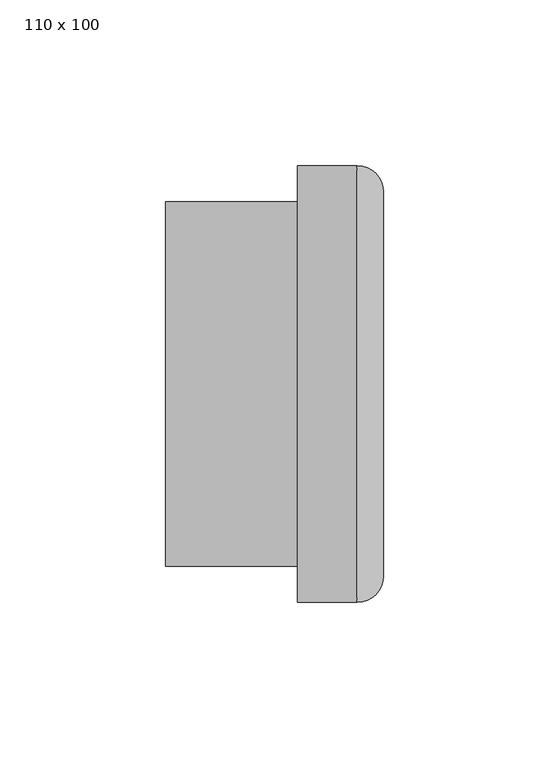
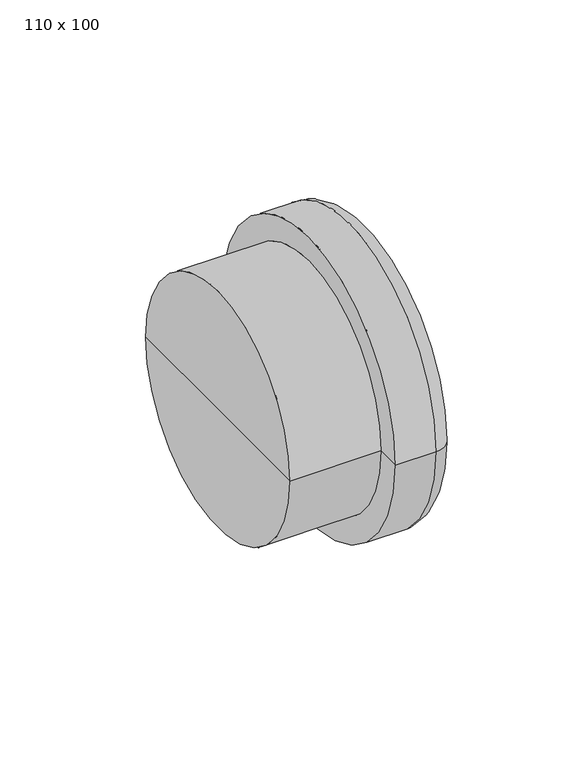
"""IFC4 building model written with IfcOpenShell, lengths in millimetres: pipe fitting geometry, AliaxisFR_Friaphon_MultipleConnector_FR : 110 x 100."""

from ifc_helpers import new_model, si_unit, point, frame, origin, place, context, project, spatial, polyline, circle_curve, ellipse_curve, trimmed, source, transform, mapped, element, save
from ifc_brep_helpers import plane_surface, cylinder_surface, revolved_surface, advanced_brep


def pipe_fitting_110_x_100_1f3c2a1c(model_context):
    return source(origin(), model_context, "Body", "AdvancedBrep", [
        advanced_brep(
        [(0.0, -55.0, 0.0), (0.0, 55.0, 0.0), (40.0, 55.0, 0.0), (40.0, -55.0, 0.0), (0.0, 0.0, 0.0), (66.0, -58.0, 0.0), (66.0, 58.0, 0.0), (66.0, 50.0, 0.0), (66.0, -50.0, 0.0), (58.0, -66.0, 0.0), (58.0, 66.0, 0.0), (40.0, -66.0, 0.0), (40.0, 66.0, 0.0), (6.0, 50.0, 0.0), (6.0, -50.0, 0.0)],
        [
            (0, 1, circle_curve(frame((0.0, 0.0, 0.0), z_axis=(1.0, 0.0, 0.0), x_axis=(0.0, 1.0, 0.0)), 55.0)),
            (1, 2),
            (2, 3, circle_curve(frame((40.0, 0.0, 0.0), z_axis=(-1.0, 0.0, 0.0), x_axis=(0.0, 1.0, 0.0)), 55.0)),
            (3, 0),
            (1, 0, circle_curve(frame((0.0, 0.0, 0.0), z_axis=(1.0, 0.0, 0.0), x_axis=(0.0, 1.0, 0.0)), 55.0)),
            (3, 2, circle_curve(frame((40.0, 0.0, 0.0), z_axis=(-1.0, 0.0, 0.0), x_axis=(0.0, 1.0, 0.0)), 55.0)),
            (0, 4),
            (4, 1),
            (5, 6, circle_curve(frame((66.0, 0.0, 0.0), z_axis=(1.0, 0.0, 0.0), x_axis=(0.0, 1.0, 0.0)), 58.0)),
            (6, 7),
            (7, 8, circle_curve(frame((66.0, 0.0, 0.0), z_axis=(-1.0, 0.0, 0.0), x_axis=(0.0, -1.0, 0.0)), 50.0)),
            (8, 5),
            (6, 5, circle_curve(frame((66.0, 0.0, 0.0), z_axis=(1.0, 0.0, 0.0), x_axis=(0.0, 1.0, 0.0)), 58.0)),
            (8, 7, circle_curve(frame((66.0, 0.0, 0.0), z_axis=(-1.0, 0.0, 0.0), x_axis=(0.0, -1.0, 0.0)), 50.0)),
            (5, 9, circle_curve(frame((58.0, -58.0, 0.0), z_axis=(0.0, 0.0, -1.0), x_axis=(1.0, 0.0, 0.0)), 8.0)),
            (9, 10, circle_curve(frame((58.0, 0.0, 0.0), z_axis=(1.0, 0.0, 0.0), x_axis=(0.0, 1.0, 0.0)), 66.0)),
            (10, 6, circle_curve(frame((58.0, 58.0, 0.0), z_axis=(0.0, 0.0, -1.0), x_axis=(1.0, 0.0, 0.0)), 8.0)),
            (10, 9, circle_curve(frame((58.0, 0.0, 0.0), z_axis=(1.0, 0.0, 0.0), x_axis=(0.0, 1.0, 0.0)), 66.0)),
            (9, 11),
            (11, 12, circle_curve(frame((40.0, 0.0, 0.0), z_axis=(1.0, 0.0, 0.0), x_axis=(0.0, 1.0, 0.0)), 66.0)),
            (12, 10),
            (12, 11, circle_curve(frame((40.0, 0.0, 0.0), z_axis=(1.0, 0.0, 0.0), x_axis=(0.0, 1.0, 0.0)), 66.0)),
            (2, 12),
            (11, 3),
            (13, 14, circle_curve(frame((6.0, 0.0, 0.0), z_axis=(1.0, 0.0, 0.0), x_axis=(0.0, -1.0, 0.0)), 50.0)),
            (14, 13, circle_curve(frame((6.0, 0.0, 0.0), z_axis=(1.0, 0.0, 0.0), x_axis=(0.0, -1.0, 0.0)), 50.0)),
            (13, 7),
            (8, 14),
        ],
        [
            cylinder_surface(frame((-70.0, 0.0, 0.0), z_axis=(-1.0, 0.0, 0.0), x_axis=(0.0, 1.0, 0.0)), 55.0),
            plane_surface(frame((0.0, 0.0, 0.0), z_axis=(-1.0, 0.0, 0.0), x_axis=(0.0, 1.0, 0.0))),
            plane_surface(frame((66.0, 0.0, 0.0), z_axis=(1.0, 0.0, 0.0), x_axis=(0.0, 1.0, 0.0))),
            revolved_surface(trimmed(ellipse_curve(frame((58.0, 58.0, 0.0), z_axis=(0.0, 0.0, 1.0), x_axis=(1.0, 0.0, 0.0)), 8.0, 8.0), [point((66.0, 58.0, 0.0))], [point((58.0, 66.0, 0.0))], True, "CARTESIAN"), (-70.0, 0.0, 0.0), (-1.0, 0.0, 0.0)),
            cylinder_surface(frame((-70.0, 0.0, 0.0), z_axis=(-1.0, 0.0, 0.0), x_axis=(0.0, 1.0, 0.0)), 66.0),
            plane_surface(frame((40.0, 0.0, 0.0), z_axis=(-1.0, 0.0, 0.0), x_axis=(0.0, 1.0, 0.0))),
            plane_surface(frame((6.0, -50.0, 0.0), z_axis=(1.0, 0.0, 0.0), x_axis=(0.0, 0.0, 1.0))),
            revolved_surface(polyline([(6.0, -50.0, 0.0), (66.0, -50.0, 0.0)]), (66.0, 0.0, 0.0), (-1.0, 0.0, 0.0)),
        ],
        [
            (0, [[1, 2, 3, 4]]),
            (0, [[-2, 5, -4, 6]]),
            (1, [[-1, 7, 8]]),
            (1, [[-5, -8, -7]]),
            (2, [[9, 10, 11, 12]]),
            (2, [[13, -12, 14, -10]]),
            (3, [[-9, 15, 16, 17]]),
            (3, [[-13, -17, 18, -15]]),
            (4, [[-16, 19, 20, 21]]),
            (4, [[-18, -21, 22, -19]]),
            (5, [[-3, 23, -20, 24]]),
            (5, [[-6, -24, -22, -23]]),
            (6, [[25, 26]]),
            (7, [[-25, 27, -14, 28]]),
            (7, [[-26, -28, -11, -27]]),
        ],
    ),
    ])


if __name__ == "__main__":
    model = new_model("IFC4")
    model_context = context("Model", 3, world=origin())
    ifc_project = project(units=[si_unit("LENGTHUNIT", "METRE", prefix="MILLI")], contexts=[model_context])
    site = spatial("IfcSite", under=ifc_project)
    building = spatial("IfcBuilding", under=site)
    placement = place(None, origin())
    pipe_fitting_110_x_100_shape = pipe_fitting_110_x_100_1f3c2a1c(model_context)
    element("IfcPipeFitting", 1, ObjectType="AliaxisFR_Friaphon_MultipleConnector_FR : 110 x 100", at=placement, inside=building, context=model_context, shape_type="MappedRepresentation", body=[
        mapped(pipe_fitting_110_x_100_shape, transform((0.0, 0.0, 0.0), x_axis=(1.0, 0.0, 0.0), y_axis=(0.0, 1.0, 0.0), z_axis=(0.0, 0.0, 1.0))),
    ])
    save(model, "model.ifc")
